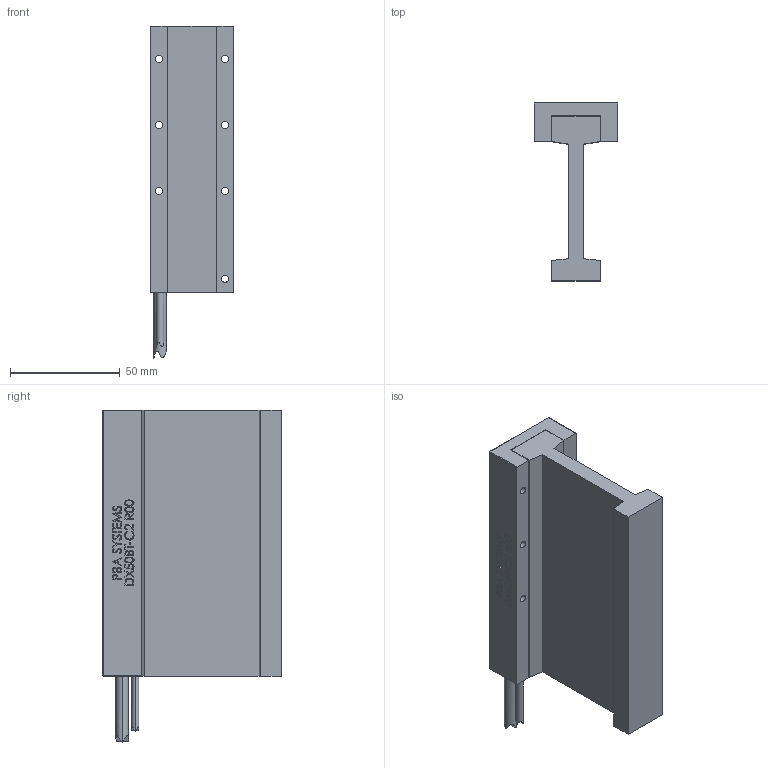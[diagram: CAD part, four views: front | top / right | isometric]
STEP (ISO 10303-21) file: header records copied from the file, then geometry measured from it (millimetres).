
FILE_DESCRIPTION (( 'STEP AP203' ), '1' );
FILE_NAME ('DX50BT-C2-000.STEP', '2015-05-28T02:37:17', ( 'PBAsystems' ), ( '' ), 'SwSTEP 2.0', 'SolidWorks 2013', '' );
FILE_SCHEMA (( 'CONFIG_CONTROL_DESIGN' ));
Length unit declared in the file: millimetre
Products named in the file (5): CBL_MTR_HALL_SS_5C_SA (#2935-1); DX50BT-C2-000; DX50BT-C2-001_CUSTOMER; DX50B-CX-002_C2; CBL_MTR_PWR_SS_7C2C_SA (#2936-1)
Assembly tree (4 placements, depth 2):
  DX50BT-C2-000
    DX50BT-C2-001_CUSTOMER
    DX50B-CX-002_C2
    CBL_MTR_PWR_SS_7C2C_SA (#2936-1)
    CBL_MTR_HALL_SS_5C_SA (#2935-1)
Bounding box: 38.2 x 81.15 x 151 mm (x, y, z)
Volume: 153728.6 mm3; surface area: 48108.1 mm2
Topology: 4 solids, 5 shells, 680 faces, 1798 edges, 1193 vertices
Faces by surface type: plane 388, bspline 264, cylinder 26, cone 2
Entity records: 36357 total; most frequent: CARTESIAN_POINT 20740, ORIENTED_EDGE 3592, DIRECTION 2154, EDGE_CURVE 1796, VECTOR 1220, LINE 1220, VERTEX_POINT 1193, EDGE_LOOP 761
